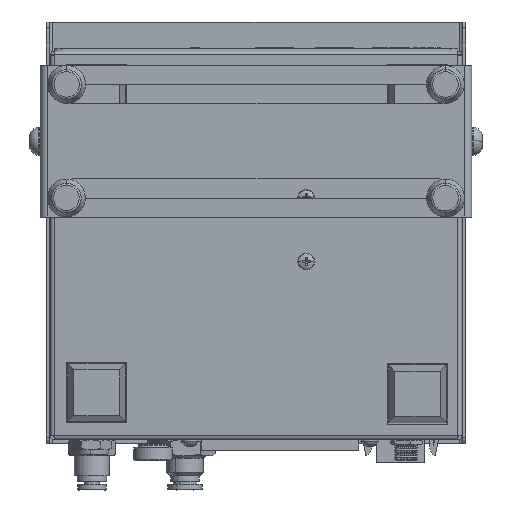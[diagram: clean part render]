
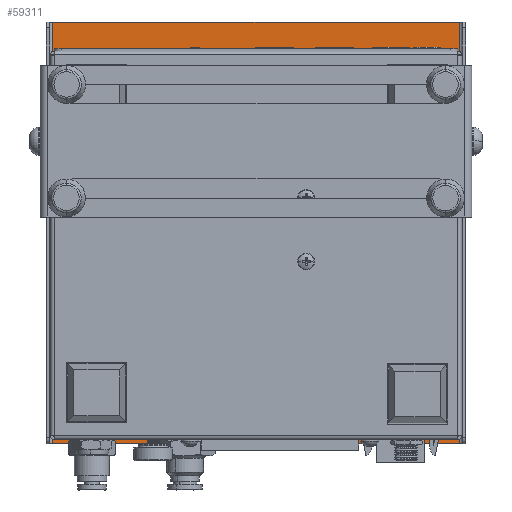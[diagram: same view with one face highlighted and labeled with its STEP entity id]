
A CAD part, front view. The second image highlights one B-rep face of the part: STEP entity #59311.
In plain terms, the highlighted planar face has unit normal (0, -1, 0).
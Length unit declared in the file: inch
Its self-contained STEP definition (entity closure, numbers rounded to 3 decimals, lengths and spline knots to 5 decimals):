
#521 = VECTOR ( 'NONE', #222408, 39.37008 ) ;
#8567 = VERTEX_POINT ( 'NONE', #219756 ) ;
#12452 = ORIENTED_EDGE ( 'NONE', *, *, #208163, .F. ) ;
#13187 = DIRECTION ( 'NONE',  ( 0., 0., 1. ) ) ;
#15463 = VECTOR ( 'NONE', #214710, 39.37008 ) ;
#19156 = LINE ( 'NONE', #54044, #98904 ) ;
#19913 = EDGE_CURVE ( 'NONE', #199494, #137179, #101316, .T. ) ;
#20581 = CARTESIAN_POINT ( 'NONE',  ( 15.39634, 1.3542, -2.02877 ) ) ;
#20905 = VECTOR ( 'NONE', #46750, 39.37008 ) ;
#25657 = ORIENTED_EDGE ( 'NONE', *, *, #118093, .T. ) ;
#27254 = CARTESIAN_POINT ( 'NONE',  ( 3.43191, 1.3542, -2.02877 ) ) ;
#31128 = VERTEX_POINT ( 'NONE', #38543 ) ;
#34319 = CARTESIAN_POINT ( 'NONE',  ( -1.95191, 1.35417, -2.12257 ) ) ;
#35620 = CARTESIAN_POINT ( 'NONE',  ( -1.91254, 1.35628, 3.44644 ) ) ;
#38543 = CARTESIAN_POINT ( 'NONE',  ( 3.44057, 1.35421, -2.01066 ) ) ;
#39336 = VERTEX_POINT ( 'NONE', #72217 ) ;
#43608 = VERTEX_POINT ( 'NONE', #81421 ) ;
#44910 = CARTESIAN_POINT ( 'NONE',  ( -1.89812, 1.35417, -2.12257 ) ) ;
#46750 = DIRECTION ( 'NONE',  ( 0., 0., -1. ) ) ;
#48468 = LINE ( 'NONE', #167607, #20905 ) ;
#52343 = EDGE_CURVE ( 'NONE', #39336, #141048, #95220, .T. ) ;
#54044 = CARTESIAN_POINT ( 'NONE',  ( 3.44057, 1.35417, -2.12257 ) ) ;
#54065 = DIRECTION ( 'NONE',  ( 0., 0., -1. ) ) ;
#55729 = EDGE_CURVE ( 'NONE', #177561, #8567, #132294, .T. ) ;
#56877 = EDGE_CURVE ( 'NONE', #177561, #230080, #181289, .T. ) ;
#59311 = ADVANCED_FACE ( 'NONE', ( #232293, #180101 ), #110745, .T. ) ;
#70576 = CARTESIAN_POINT ( 'NONE',  ( -1.91254, 1.35628, 3.44644 ) ) ;
#72217 = CARTESIAN_POINT ( 'NONE',  ( -1.88946, 1.35421, -2.01539 ) ) ;
#74227 = ORIENTED_EDGE ( 'NONE', *, *, #215199, .F. ) ;
#74619 = DIRECTION ( 'NONE',  ( 0., 0., -1. ) ) ;
#76979 = VECTOR ( 'NONE', #231726, 39.37008 ) ;
#79522 = EDGE_CURVE ( 'NONE', #43608, #225219, #112269, .T. ) ;
#81421 = CARTESIAN_POINT ( 'NONE',  ( 3.43191, 1.35421, -2.01066 ) ) ;
#83120 = ORIENTED_EDGE ( 'NONE', *, *, #139245, .F. ) ;
#88632 = ORIENTED_EDGE ( 'NONE', *, *, #153028, .T. ) ;
#89219 = VECTOR ( 'NONE', #129772, 39.37008 ) ;
#95220 = LINE ( 'NONE', #194989, #15463 ) ;
#98904 = VECTOR ( 'NONE', #74619, 39.37008 ) ;
#99407 = DIRECTION ( 'NONE',  ( 1., 0., 0. ) ) ;
#99725 = VECTOR ( 'NONE', #180038, 39.37008 ) ;
#101316 = LINE ( 'NONE', #189613, #156730 ) ;
#110745 = PLANE ( 'NONE',  #139562 ) ;
#112269 = LINE ( 'NONE', #225815, #185841 ) ;
#114209 = CARTESIAN_POINT ( 'NONE',  ( -1.95191, 1.35628, 3.44644 ) ) ;
#118075 = ORIENTED_EDGE ( 'NONE', *, *, #207056, .F. ) ;
#118093 = EDGE_CURVE ( 'NONE', #8567, #242849, #220904, .T. ) ;
#120351 = CARTESIAN_POINT ( 'NONE',  ( 3.43191, 1.35421, -2.01539 ) ) ;
#122653 = VECTOR ( 'NONE', #99407, 39.37008 ) ;
#125166 = ORIENTED_EDGE ( 'NONE', *, *, #208554, .F. ) ;
#128099 = VECTOR ( 'NONE', #13187, 39.37008 ) ;
#129772 = DIRECTION ( 'NONE',  ( 0., 0., -1. ) ) ;
#132294 = LINE ( 'NONE', #70576, #89219 ) ;
#137179 = VERTEX_POINT ( 'NONE', #169912 ) ;
#138425 = ORIENTED_EDGE ( 'NONE', *, *, #55729, .T. ) ;
#139245 = EDGE_CURVE ( 'NONE', #189243, #225219, #235719, .T. ) ;
#139562 = AXIS2_PLACEMENT_3D ( 'NONE', #34319, #169046, #54065 ) ;
#141048 = VERTEX_POINT ( 'NONE', #172098 ) ;
#142808 = LINE ( 'NONE', #20581, #99725 ) ;
#145217 = ORIENTED_EDGE ( 'NONE', *, *, #56877, .F. ) ;
#146238 = VECTOR ( 'NONE', #189218, 39.37008 ) ;
#146790 = CARTESIAN_POINT ( 'NONE',  ( -1.89812, 1.35421, -2.01066 ) ) ;
#147638 = DIRECTION ( 'NONE',  ( 1., 0., 0. ) ) ;
#148907 = EDGE_LOOP ( 'NONE', ( #12452, #215118, #83120, #125166, #206554, #223181, #74227, #118075, #251319, #88632 ) ) ;
#152963 = VERTEX_POINT ( 'NONE', #146790 ) ;
#153028 = EDGE_CURVE ( 'NONE', #137179, #31128, #19156, .T. ) ;
#155975 = VECTOR ( 'NONE', #167389, 39.37008 ) ;
#156730 = VECTOR ( 'NONE', #147638, 39.37008 ) ;
#157889 = EDGE_CURVE ( 'NONE', #242849, #230080, #183477, .T. ) ;
#158541 = LINE ( 'NONE', #226146, #146238 ) ;
#159247 = CARTESIAN_POINT ( 'NONE',  ( -1.88946, 1.3542, -2.02877 ) ) ;
#159589 = VERTEX_POINT ( 'NONE', #159247 ) ;
#162017 = ORIENTED_EDGE ( 'NONE', *, *, #157889, .T. ) ;
#166584 = DIRECTION ( 'NONE',  ( 0., 0., -1. ) ) ;
#167389 = DIRECTION ( 'NONE',  ( 0., 0., 1. ) ) ;
#167607 = CARTESIAN_POINT ( 'NONE',  ( -1.88946, 1.35417, -2.12257 ) ) ;
#169046 = DIRECTION ( 'NONE',  ( 0., -1., 0. ) ) ;
#169912 = CARTESIAN_POINT ( 'NONE',  ( 3.44057, 1.3543, -1.7831 ) ) ;
#172098 = CARTESIAN_POINT ( 'NONE',  ( -1.88946, 1.35421, -2.01066 ) ) ;
#177561 = VERTEX_POINT ( 'NONE', #35620 ) ;
#178445 = LINE ( 'NONE', #185489, #521 ) ;
#179508 = CARTESIAN_POINT ( 'NONE',  ( 3.45509, 1.35628, 3.44644 ) ) ;
#180038 = DIRECTION ( 'NONE',  ( 1., 0., 0. ) ) ;
#180101 = FACE_OUTER_BOUND ( 'NONE', #250525, .T. ) ;
#181289 = LINE ( 'NONE', #114209, #76979 ) ;
#183477 = LINE ( 'NONE', #242120, #155975 ) ;
#185489 = CARTESIAN_POINT ( 'NONE',  ( -1.95191, 1.35421, -2.01066 ) ) ;
#185841 = VECTOR ( 'NONE', #201721, 39.37008 ) ;
#189218 = DIRECTION ( 'NONE',  ( 1., 0., 0. ) ) ;
#189243 = VERTEX_POINT ( 'NONE', #27254 ) ;
#189613 = CARTESIAN_POINT ( 'NONE',  ( -1.95191, 1.3543, -1.7831 ) ) ;
#192987 = VECTOR ( 'NONE', #166584, 39.37008 ) ;
#194989 = CARTESIAN_POINT ( 'NONE',  ( -1.88946, 1.35417, -2.12257 ) ) ;
#195453 = CARTESIAN_POINT ( 'NONE',  ( -1.89812, 1.3543, -1.7831 ) ) ;
#199494 = VERTEX_POINT ( 'NONE', #195453 ) ;
#199690 = CARTESIAN_POINT ( 'NONE',  ( -1.95191, 1.35417, -2.12257 ) ) ;
#201721 = DIRECTION ( 'NONE',  ( 0., 0., -1. ) ) ;
#202136 = EDGE_CURVE ( 'NONE', #39336, #159589, #48468, .T. ) ;
#206554 = ORIENTED_EDGE ( 'NONE', *, *, #202136, .F. ) ;
#207056 = EDGE_CURVE ( 'NONE', #199494, #152963, #211395, .T. ) ;
#208163 = EDGE_CURVE ( 'NONE', #43608, #31128, #158541, .T. ) ;
#208554 = EDGE_CURVE ( 'NONE', #159589, #189243, #142808, .T. ) ;
#208726 = CARTESIAN_POINT ( 'NONE',  ( 3.43191, 1.35417, -2.12257 ) ) ;
#211395 = LINE ( 'NONE', #44910, #192987 ) ;
#214710 = DIRECTION ( 'NONE',  ( 0., 0., 1. ) ) ;
#215118 = ORIENTED_EDGE ( 'NONE', *, *, #79522, .T. ) ;
#215199 = EDGE_CURVE ( 'NONE', #152963, #141048, #178445, .T. ) ;
#219756 = CARTESIAN_POINT ( 'NONE',  ( -1.91254, 1.35417, -2.12257 ) ) ;
#220904 = LINE ( 'NONE', #199690, #122653 ) ;
#220921 = CARTESIAN_POINT ( 'NONE',  ( 3.45509, 1.35417, -2.12257 ) ) ;
#222408 = DIRECTION ( 'NONE',  ( 1., 0., 0. ) ) ;
#223181 = ORIENTED_EDGE ( 'NONE', *, *, #52343, .T. ) ;
#225219 = VERTEX_POINT ( 'NONE', #120351 ) ;
#225815 = CARTESIAN_POINT ( 'NONE',  ( 3.43191, 1.35417, -2.12257 ) ) ;
#226146 = CARTESIAN_POINT ( 'NONE',  ( -1.95191, 1.35421, -2.01066 ) ) ;
#230080 = VERTEX_POINT ( 'NONE', #179508 ) ;
#231726 = DIRECTION ( 'NONE',  ( 1., 0., 0. ) ) ;
#232293 = FACE_BOUND ( 'NONE', #148907, .T. ) ;
#235719 = LINE ( 'NONE', #208726, #128099 ) ;
#242120 = CARTESIAN_POINT ( 'NONE',  ( 3.45509, 1.35417, -2.12257 ) ) ;
#242849 = VERTEX_POINT ( 'NONE', #220921 ) ;
#250525 = EDGE_LOOP ( 'NONE', ( #145217, #138425, #25657, #162017 ) ) ;
#251319 = ORIENTED_EDGE ( 'NONE', *, *, #19913, .T. ) ;
